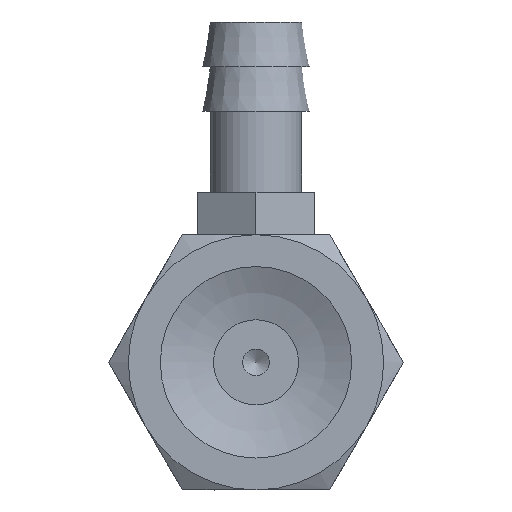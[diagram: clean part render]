
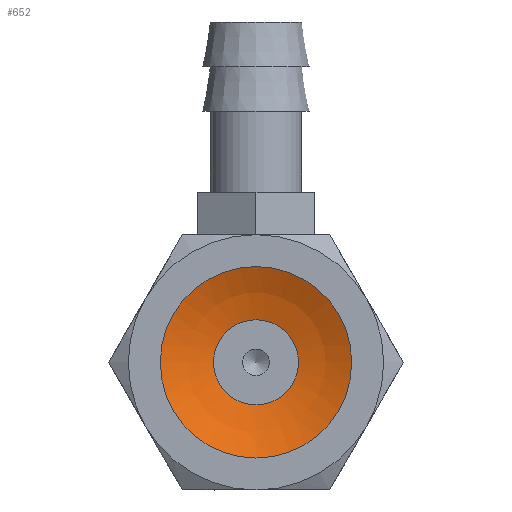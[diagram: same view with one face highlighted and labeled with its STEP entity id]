
A CAD part, front view. The second image highlights one B-rep face of the part: STEP entity #652.
In plain terms, the highlighted spherical face has radius 10.203 mm.
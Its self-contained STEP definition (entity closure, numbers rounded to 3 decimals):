
#652=ADVANCED_FACE('',(#1015,#1016),#1017,.F.);
#1015=FACE_OUTER_BOUND('',#1421,.T.);
#1016=FACE_OUTER_BOUND('',#1422,.T.);
#1017=SPHERICAL_SURFACE('',#1423,10.203);
#1421=EDGE_LOOP('',(#2416));
#1422=EDGE_LOOP('',(#2417));
#1423=AXIS2_PLACEMENT_3D('',#2418,#2419,#2420);
#2416=ORIENTED_EDGE('',*,*,#2821,.T.);
#2417=ORIENTED_EDGE('',*,*,#2820,.F.);
#2418=CARTESIAN_POINT('',(0.,-9.157,0.));
#2419=DIRECTION('',(0.0,-1.0,0.));
#2420=DIRECTION('',(1.0,0.0,0.0));
#2820=EDGE_CURVE('',#3286,#3286,#3287,.T.);
#2821=EDGE_CURVE('',#3288,#3288,#3289,.T.);
#3286=VERTEX_POINT('',#4396);
#3287=CIRCLE('',#4397,2.);
#3288=VERTEX_POINT('',#4398);
#3289=CIRCLE('',#4399,4.5);
#4396=CARTESIAN_POINT('',(0.0,0.848,-2.));
#4397=AXIS2_PLACEMENT_3D('',#4852,#4853,#4854);
#4398=CARTESIAN_POINT('',(0.0,0.,-4.5));
#4399=AXIS2_PLACEMENT_3D('',#4855,#4856,#4857);
#4852=CARTESIAN_POINT('',(0.0,0.848,0.0));
#4853=DIRECTION('',(0.0,-1.0,0.));
#4854=DIRECTION('',(0.0,0.,-1.0));
#4855=CARTESIAN_POINT('',(0.0,0.,0.0));
#4856=DIRECTION('',(0.0,-1.0,0.));
#4857=DIRECTION('',(0.0,0.,-1.0));
